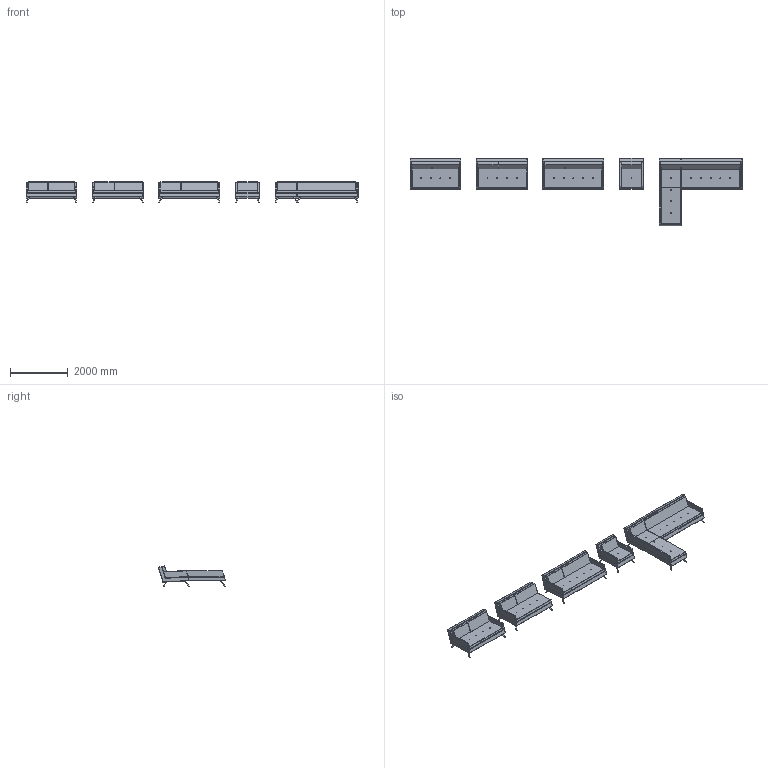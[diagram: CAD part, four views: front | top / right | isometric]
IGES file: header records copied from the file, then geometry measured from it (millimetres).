
Start section: Data from Parasolid IGES Translator 19.0.9, Copyright(c) 2006 Siemens PL M Software. All Rights Reserved.
Global section: file name: Lot2.igs; native system: By Siemens PLM Incorporated; preprocessor: XPlus GENERIC/IGES 19.0.9; author: Noname; organization: Noname; date: 20170621.094819; units: metre
Bounding box: 11480.69 x 2335.04 x 692.95 mm (x, y, z)
Volume: 2888993329 mm3; surface area: 51245739.6 mm2
Topology: 55 solids, 55 shells, 978 faces, 2093 edges, 1049 vertices
Faces by surface type: cylinder 453, sphere 264, plane 245, torus 16
Full cylindrical faces by diameter (mm): 30 x45
